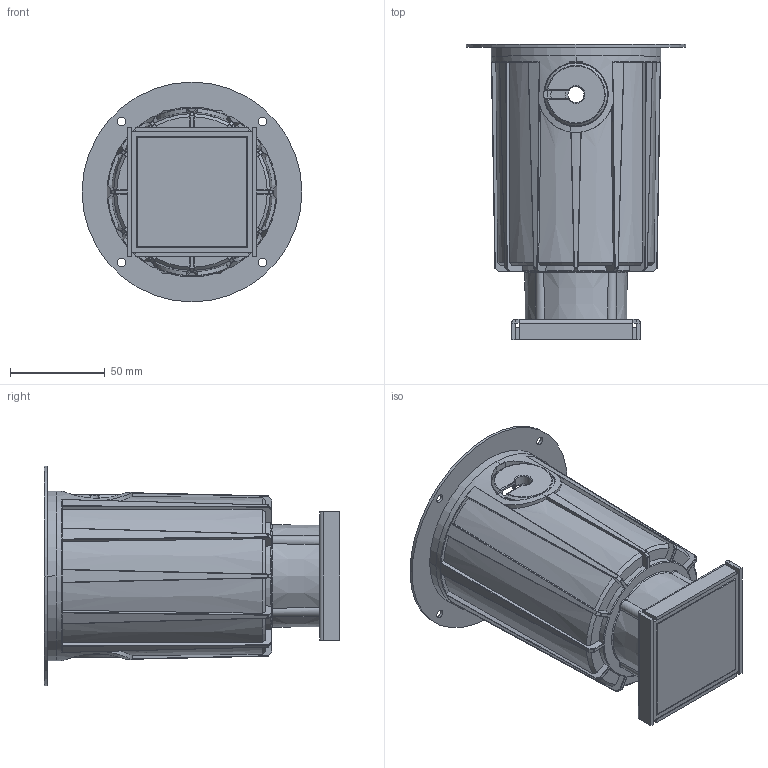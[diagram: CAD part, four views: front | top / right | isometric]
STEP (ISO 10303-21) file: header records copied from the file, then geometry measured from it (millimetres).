
FILE_DESCRIPTION((''),'2;1');
FILE_NAME('2CCS_ASM_25_ASM','2024-11-19T',('C028'),(''),'CREO PARAMETRIC BY PTC INC, 2014190','CREO PARAMETRIC BY PTC INC, 2014190','');
FILE_SCHEMA(('CONFIG_CONTROL_DESIGN'));
Products named in the file (25): 2CCS-DT_26; D1S-H_18_37; Y-D5G55R2R55DM_32_45; 2CCR-KH_37; 2CCS-BL_25; REFLECTOR_1_37; R-COVER_1_37; LED-80_2_37; COB-80_1_37; FANGUANGZHAO_ASM_51_ASM_37_ASM; R7_ASM_37_ASM; 2CCR-MZH_40; DZ_3_37; 2CCR-MZH_ASM_37_ASM; Y_2_37; SS1_1_37; SS2_1_37; SS3_1_37; M12-CU_ASM_1_ASM_37_ASM; M12_ASM_37_ASM; 2CCR-FSD_37; M3-BT_37; 2CCS-CYQ_28; 2DF-HG_37; 2CCS_ASM_25_ASM
Assembly tree (27 placements, depth 4):
  2CCS_ASM_25_ASM
    2CCS-DT_26
    D1S-H_18_37
    Y-D5G55R2R55DM_32_45
    2CCR-KH_37  x2
    2CCS-BL_25
    R7_ASM_37_ASM
      FANGUANGZHAO_ASM_51_ASM_37_ASM
        REFLECTOR_1_37
        R-COVER_1_37
        LED-80_2_37
        COB-80_1_37
    2CCR-MZH_ASM_37_ASM
      2CCR-MZH_40
      DZ_3_37
    Y_2_37  x2
    M12_ASM_37_ASM
      M12-CU_ASM_1_ASM_37_ASM
        SS1_1_37
        SS2_1_37
        SS3_1_37
    2CCR-FSD_37
    M3-BT_37  x2
    2CCS-CYQ_28
    2DF-HG_37
Bounding box: 116 x 155.8 x 116 mm (x, y, z)
Volume: 236268.6 mm3; surface area: 189624.1 mm2
Topology: 22 solids, 22 shells, 1970 faces, 5565 edges, 3690 vertices
Faces by surface type: plane 906, cylinder 595, torus 162, cone 141, bspline 111, revolution 34, sphere 12, extrusion 9
Entity records: 76148 total; most frequent: CARTESIAN_POINT 28830, ORIENTED_EDGE 10294, DIRECTION 9261, EDGE_CURVE 5147, VERTEX_POINT 3414, AXIS2_PLACEMENT_3D 3259, VECTOR 2709, LINE 2700
